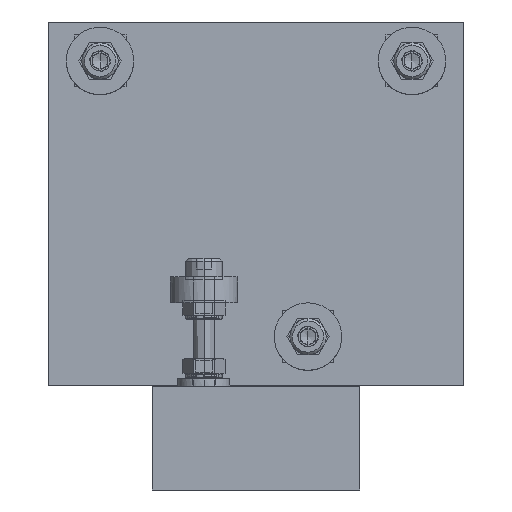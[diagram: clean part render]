
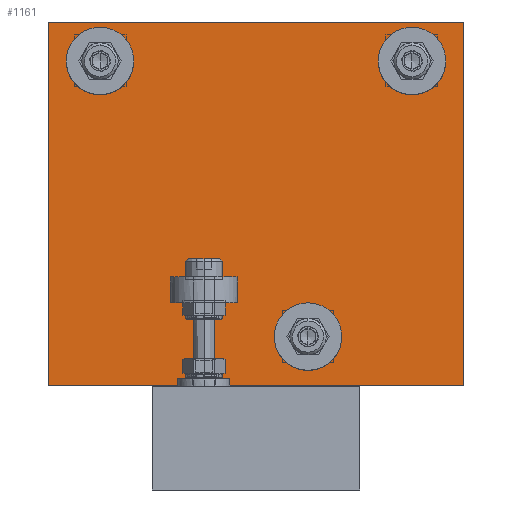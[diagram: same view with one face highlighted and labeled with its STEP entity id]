
A CAD part, left-side view. The second image highlights one B-rep face of the part: STEP entity #1161.
In plain terms, the highlighted planar face has unit normal (-1, 0, 0).
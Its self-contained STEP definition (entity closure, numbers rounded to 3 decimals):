
#1161=ADVANCED_FACE('',(#2159),#31192,.T.);
#2159=FACE_OUTER_BOUND('',#3174,.T.);
#3174=EDGE_LOOP('',(#4613,#4614,#4615,#4616));
#4613=ORIENTED_EDGE('',*,*,#22550,.T.);
#4614=ORIENTED_EDGE('',*,*,#22551,.T.);
#4615=ORIENTED_EDGE('',*,*,#22552,.T.);
#4616=ORIENTED_EDGE('',*,*,#22553,.T.);
#11212=PCURVE('',#31192,#15820);
#11213=PCURVE('',#31192,#15821);
#11214=PCURVE('',#31192,#15822);
#11215=PCURVE('',#31192,#15823);
#11219=PCURVE('',#31193,#15827);
#11225=PCURVE('',#31195,#15833);
#11231=PCURVE('',#31196,#15839);
#11232=PCURVE('',#31197,#15840);
#15820=DEFINITIONAL_REPRESENTATION('',(#25233),#65586);
#15821=DEFINITIONAL_REPRESENTATION('',(#25235),#65586);
#15822=DEFINITIONAL_REPRESENTATION('',(#25237),#65586);
#15823=DEFINITIONAL_REPRESENTATION('',(#25239),#65586);
#15827=DEFINITIONAL_REPRESENTATION('',(#25246),#65586);
#15833=DEFINITIONAL_REPRESENTATION('',(#25256),#65586);
#15839=DEFINITIONAL_REPRESENTATION('',(#25263),#65586);
#15840=DEFINITIONAL_REPRESENTATION('',(#25264),#65586);
#20196=SURFACE_CURVE('',#25232,(#11212,#11231),.PCURVE_S1.);
#20197=SURFACE_CURVE('',#25234,(#11213,#11219),.PCURVE_S1.);
#20198=SURFACE_CURVE('',#25236,(#11214,#11232),.PCURVE_S1.);
#20199=SURFACE_CURVE('',#25238,(#11215,#11225),.PCURVE_S1.);
#22550=EDGE_CURVE('',#29789,#29790,#20196,.T.);
#22551=EDGE_CURVE('',#29790,#29791,#20197,.T.);
#22552=EDGE_CURVE('',#29791,#29792,#20198,.T.);
#22553=EDGE_CURVE('',#29792,#29789,#20199,.T.);
#25232=B_SPLINE_CURVE_WITH_KNOTS('',1,(#36735,#36736),.UNSPECIFIED.,.F.,
 .F.,(2,2),(-80.,-60.),.UNSPECIFIED.);
#25233=B_SPLINE_CURVE_WITH_KNOTS('',1,(#36737,#36738),.UNSPECIFIED.,.F.,
 .F.,(2,2),(-80.,-60.),.UNSPECIFIED.);
#25234=B_SPLINE_CURVE_WITH_KNOTS('',1,(#36739,#36740),.UNSPECIFIED.,.F.,
 .F.,(2,2),(0.,80.),.UNSPECIFIED.);
#25235=B_SPLINE_CURVE_WITH_KNOTS('',1,(#36741,#36742),.UNSPECIFIED.,.F.,
 .F.,(2,2),(0.,80.),.UNSPECIFIED.);
#25236=B_SPLINE_CURVE_WITH_KNOTS('',1,(#36743,#36744),.UNSPECIFIED.,.F.,
 .F.,(2,2),(60.,80.),.UNSPECIFIED.);
#25237=B_SPLINE_CURVE_WITH_KNOTS('',1,(#36745,#36746),.UNSPECIFIED.,.F.,
 .F.,(2,2),(60.,80.),.UNSPECIFIED.);
#25238=B_SPLINE_CURVE_WITH_KNOTS('',1,(#36747,#36748),.UNSPECIFIED.,.F.,
 .F.,(2,2),(-80.,0.),.UNSPECIFIED.);
#25239=B_SPLINE_CURVE_WITH_KNOTS('',1,(#36749,#36750),.UNSPECIFIED.,.F.,
 .F.,(2,2),(-80.,0.),.UNSPECIFIED.);
#25246=B_SPLINE_CURVE_WITH_KNOTS('',1,(#36763,#36764),.UNSPECIFIED.,.F.,
 .F.,(2,2),(0.,80.),.UNSPECIFIED.);
#25256=B_SPLINE_CURVE_WITH_KNOTS('',1,(#36783,#36784),.UNSPECIFIED.,.F.,
 .F.,(2,2),(-80.,0.),.UNSPECIFIED.);
#25263=B_SPLINE_CURVE_WITH_KNOTS('',1,(#36797,#36798),.UNSPECIFIED.,.F.,
 .F.,(2,2),(-80.,-60.),.UNSPECIFIED.);
#25264=B_SPLINE_CURVE_WITH_KNOTS('',1,(#36799,#36800),.UNSPECIFIED.,.F.,
 .F.,(2,2),(60.,80.),.UNSPECIFIED.);
#29789=VERTEX_POINT('',#36727);
#29790=VERTEX_POINT('',#36728);
#29791=VERTEX_POINT('',#36729);
#29792=VERTEX_POINT('',#36730);
#31192=PLANE('',#32389);
#31193=PLANE('',#32390);
#31195=PLANE('',#32392);
#31196=PLANE('',#32393);
#31197=PLANE('',#32394);
#32389=AXIS2_PLACEMENT_3D('',#36721,#32956,$);
#32390=AXIS2_PLACEMENT_3D('',#36722,#32957,$);
#32392=AXIS2_PLACEMENT_3D('',#36724,#32959,$);
#32393=AXIS2_PLACEMENT_3D('',#36725,#32960,$);
#32394=AXIS2_PLACEMENT_3D('',#36726,#32961,$);
#32956=DIRECTION('',(-1.,0.,0.));
#32957=DIRECTION('',(0.,0.,1.));
#32959=DIRECTION('',(0.,0.,-1.));
#32960=DIRECTION('',(0.,-1.,0.));
#32961=DIRECTION('',(0.,1.,0.));
#36721=CARTESIAN_POINT('',(-755.,15.,-16.));
#36722=CARTESIAN_POINT('',(-755.,15.,54.));
#36724=CARTESIAN_POINT('',(-735.,15.,-16.));
#36725=CARTESIAN_POINT('',(-735.,15.,-16.));
#36726=CARTESIAN_POINT('',(-735.,95.,-16.));
#36727=CARTESIAN_POINT('',(-755.,15.,-16.));
#36728=CARTESIAN_POINT('',(-755.,15.,54.));
#36729=CARTESIAN_POINT('',(-755.,95.,54.));
#36730=CARTESIAN_POINT('',(-755.,95.,-16.));
#36735=CARTESIAN_POINT('',(-755.,15.,-16.));
#36736=CARTESIAN_POINT('',(-755.,15.,54.));
#36737=CARTESIAN_POINT('',(-80.,0.));
#36738=CARTESIAN_POINT('',(-60.,0.));
#36739=CARTESIAN_POINT('',(-755.,15.,54.));
#36740=CARTESIAN_POINT('',(-755.,95.,54.));
#36741=CARTESIAN_POINT('',(-60.,0.));
#36742=CARTESIAN_POINT('',(-60.,80.));
#36743=CARTESIAN_POINT('',(-755.,95.,54.));
#36744=CARTESIAN_POINT('',(-755.,95.,-16.));
#36745=CARTESIAN_POINT('',(-60.,80.));
#36746=CARTESIAN_POINT('',(-80.,80.));
#36747=CARTESIAN_POINT('',(-755.,95.,-16.));
#36748=CARTESIAN_POINT('',(-755.,15.,-16.));
#36749=CARTESIAN_POINT('',(-80.,80.));
#36750=CARTESIAN_POINT('',(-80.,0.));
#36763=CARTESIAN_POINT('',(-60.,0.));
#36764=CARTESIAN_POINT('',(-60.,80.));
#36783=CARTESIAN_POINT('',(0.,80.));
#36784=CARTESIAN_POINT('',(0.,0.));
#36797=CARTESIAN_POINT('',(0.,0.));
#36798=CARTESIAN_POINT('',(70.,0.));
#36799=CARTESIAN_POINT('',(0.,70.));
#36800=CARTESIAN_POINT('',(0.,0.));
#65586=(
GEOMETRIC_REPRESENTATION_CONTEXT(2)
PARAMETRIC_REPRESENTATION_CONTEXT()
REPRESENTATION_CONTEXT('pspace','')
);
